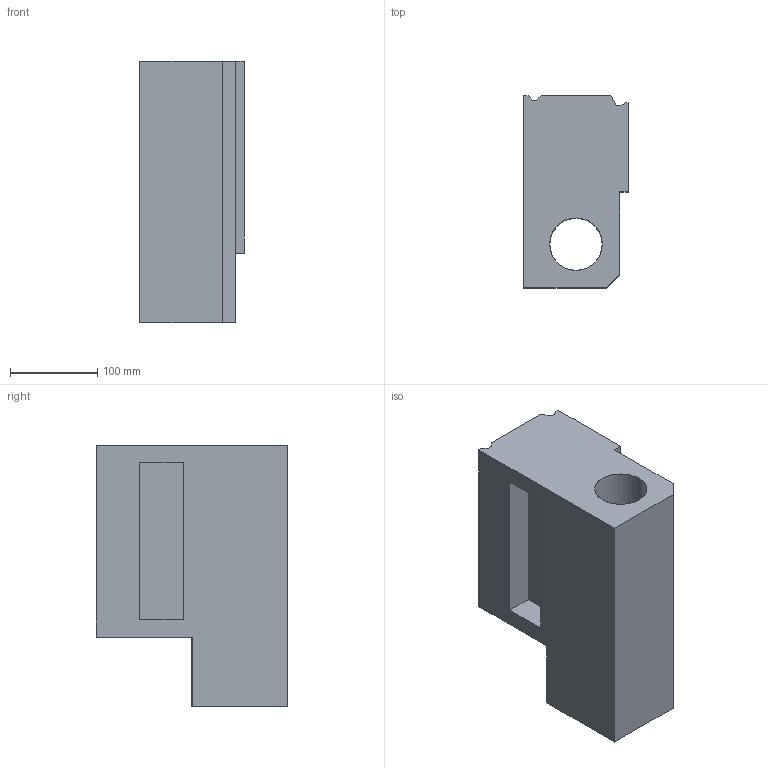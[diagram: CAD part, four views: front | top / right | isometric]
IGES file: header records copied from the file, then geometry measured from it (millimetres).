
Start section: SolidWorks IGES file using analytic representation for surfaces
Global section: file name: C:\Documents and Settings\PHILIPPE\Mes documents\DAO-FAO\esprit\Machines\Tour euroturn gris 2\Fichiers-sw2006\Poupee-mobile-euroturn-gris-2.IGS; native system: SolidWorks 2006 by SolidWorks Corporation; preprocessor: SolidWorks 2006 by SolidWorks Corporation; author: PHILIPPE; date: 070519.123132; units: millimetre
Bounding box: 120 x 220 x 300 mm (x, y, z)
Surface area: 310025.5 mm2 (no closed solid volume)
Topology: 0 solids, 0 shells, 32 faces, 292 edges, 292 vertices
Faces by surface type: bspline 30, revolution 2
